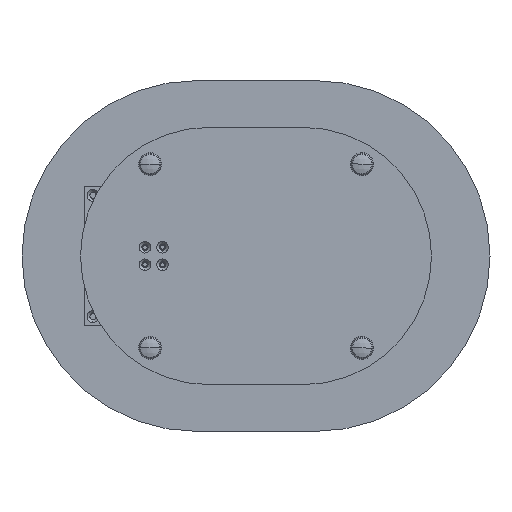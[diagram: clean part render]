
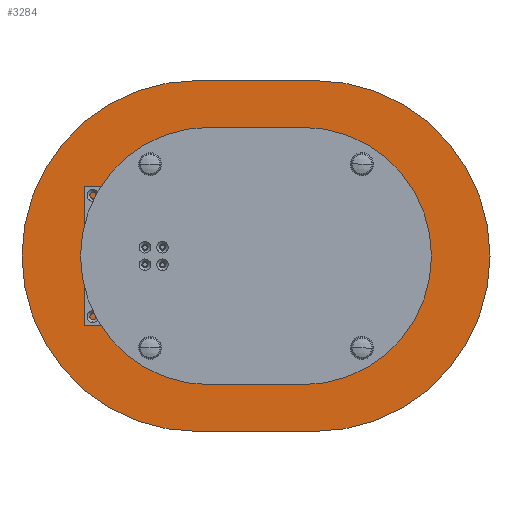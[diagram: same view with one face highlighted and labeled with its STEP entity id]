
A CAD part, front view. The second image highlights one B-rep face of the part: STEP entity #3284.
In plain terms, the highlighted planar face has unit normal (0, -1, 0).
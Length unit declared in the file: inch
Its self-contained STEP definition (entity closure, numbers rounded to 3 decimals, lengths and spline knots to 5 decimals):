
#246 = LINE ( 'NONE', #6577, #11388 ) ;
#447 = CARTESIAN_POINT ( 'NONE',  ( -2.5, 0., 0. ) ) ;
#716 = VERTEX_POINT ( 'NONE', #6767 ) ;
#1353 = DIRECTION ( 'NONE',  ( 0., 1., 0. ) ) ;
#2117 = FACE_OUTER_BOUND ( 'NONE', #4813, .T. ) ;
#2282 = PLANE ( 'NONE',  #9883 ) ;
#2584 = VERTEX_POINT ( 'NONE', #8452 ) ;
#3077 = AXIS2_PLACEMENT_3D ( 'NONE', #3249, #1353, #6859 ) ;
#3249 = CARTESIAN_POINT ( 'NONE',  ( -2.5, 0., 0. ) ) ;
#3284 = ADVANCED_FACE ( 'NONE', ( #2117 ), #2282, .F. ) ;
#3341 = DIRECTION ( 'NONE',  ( 0., 0., 1. ) ) ;
#3569 = EDGE_CURVE ( 'NONE', #6519, #716, #11385, .T. ) ;
#4042 = EDGE_CURVE ( 'NONE', #716, #4153, #246, .T. ) ;
#4153 = VERTEX_POINT ( 'NONE', #6091 ) ;
#4304 = EDGE_CURVE ( 'NONE', #4153, #2584, #6673, .T. ) ;
#4813 = EDGE_LOOP ( 'NONE', ( #10913, #9623, #9353, #5400 ) ) ;
#5400 = ORIENTED_EDGE ( 'NONE', *, *, #7140, .F. ) ;
#5707 = DIRECTION ( 'NONE',  ( 0., 0., 1. ) ) ;
#6091 = CARTESIAN_POINT ( 'NONE',  ( -2.5, 0., -7.5 ) ) ;
#6519 = VERTEX_POINT ( 'NONE', #7690 ) ;
#6577 = CARTESIAN_POINT ( 'NONE',  ( -2.5, 0., -7.5 ) ) ;
#6673 = CIRCLE ( 'NONE', #3077, 7.5 ) ;
#6720 = DIRECTION ( 'NONE',  ( 0., 1., 0. ) ) ;
#6767 = CARTESIAN_POINT ( 'NONE',  ( 2.5, 0., -7.5 ) ) ;
#6859 = DIRECTION ( 'NONE',  ( 0., 0., 1. ) ) ;
#7140 = EDGE_CURVE ( 'NONE', #2584, #6519, #7349, .T. ) ;
#7349 = LINE ( 'NONE', #8362, #7521 ) ;
#7465 = DIRECTION ( 'NONE',  ( -1., 0., 0. ) ) ;
#7521 = VECTOR ( 'NONE', #7525, 39.37008 ) ;
#7525 = DIRECTION ( 'NONE',  ( 1., 0., 0. ) ) ;
#7690 = CARTESIAN_POINT ( 'NONE',  ( 2.5, 0., 7.5 ) ) ;
#7834 = CARTESIAN_POINT ( 'NONE',  ( 2.5, 0., 0. ) ) ;
#7987 = AXIS2_PLACEMENT_3D ( 'NONE', #7834, #8838, #3341 ) ;
#8362 = CARTESIAN_POINT ( 'NONE',  ( -2.5, 0., 7.5 ) ) ;
#8452 = CARTESIAN_POINT ( 'NONE',  ( -2.5, 0., 7.5 ) ) ;
#8838 = DIRECTION ( 'NONE',  ( 0., 1., 0. ) ) ;
#9353 = ORIENTED_EDGE ( 'NONE', *, *, #3569, .F. ) ;
#9623 = ORIENTED_EDGE ( 'NONE', *, *, #4042, .F. ) ;
#9883 = AXIS2_PLACEMENT_3D ( 'NONE', #447, #6720, #5707 ) ;
#10913 = ORIENTED_EDGE ( 'NONE', *, *, #4304, .F. ) ;
#11385 = CIRCLE ( 'NONE', #7987, 7.5 ) ;
#11388 = VECTOR ( 'NONE', #7465, 39.37008 ) ;
